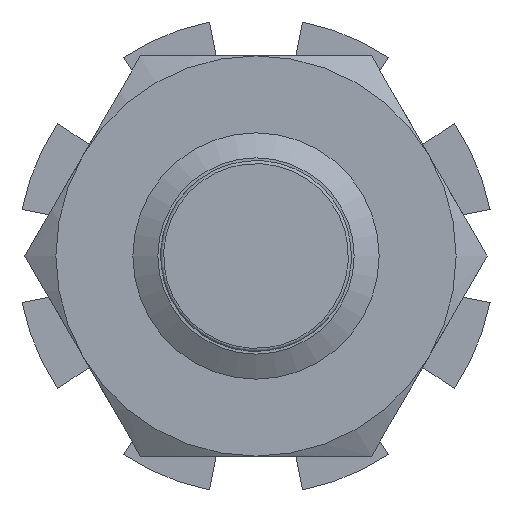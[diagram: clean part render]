
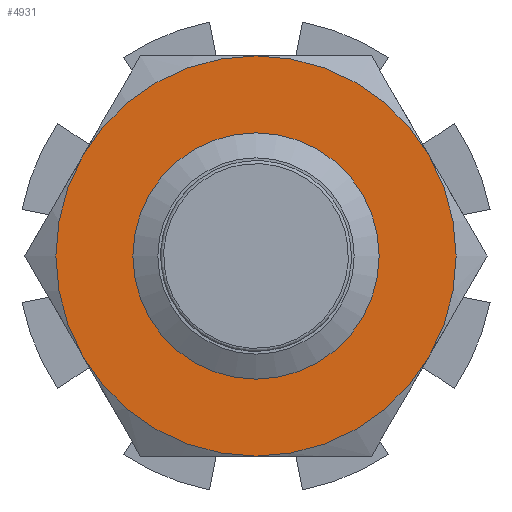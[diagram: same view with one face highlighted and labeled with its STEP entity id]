
A CAD part, left-side view. The second image highlights one B-rep face of the part: STEP entity #4931.
In plain terms, the highlighted planar face has unit normal (-1, 0, 0).
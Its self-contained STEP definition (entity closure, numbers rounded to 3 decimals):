
#4824=CARTESIAN_POINT('',(134.11,266.684,2.));
#4825=VERTEX_POINT('',#4824);
#4826=CARTESIAN_POINT('',(134.11,270.148,0.));
#4827=DIRECTION('',(-1.,0.0,0.0));
#4828=DIRECTION('',(0.0,0.866,-0.5));
#4829=AXIS2_PLACEMENT_3D('',#4826,#4827,#4828);
#4830=CIRCLE('',#4829,4.);
#4831=EDGE_CURVE('',#4825,#4825,#4830,.T.);
#4867=CARTESIAN_POINT('',(134.11,270.148,0.));
#4868=DIRECTION('',(1.0,0.0,0.0));
#4869=DIRECTION('',(0.0,0.866,-0.5));
#4870=AXIS2_PLACEMENT_3D('',#4867,#4868,#4869);
#4871=PLANE('',#4870);
#4872=CARTESIAN_POINT('',(134.11,270.148,-6.5));
#4873=VERTEX_POINT('',#4872);
#4874=CARTESIAN_POINT('',(134.11,264.519,-3.25));
#4875=VERTEX_POINT('',#4874);
#4876=CARTESIAN_POINT('',(134.11,270.148,0.));
#4877=DIRECTION('',(-1.0,0.0,0.0));
#4878=DIRECTION('',(0.0,0.5,0.866));
#4879=AXIS2_PLACEMENT_3D('',#4876,#4877,#4878);
#4880=CIRCLE('',#4879,6.5);
#4881=EDGE_CURVE('',#4873,#4875,#4880,.T.);
#4882=ORIENTED_EDGE('',*,*,#4881,.T.);
#4883=CARTESIAN_POINT('',(134.11,264.519,3.25));
#4884=VERTEX_POINT('',#4883);
#4885=CARTESIAN_POINT('',(134.11,270.148,0.));
#4886=DIRECTION('',(-1.0,0.0,0.0));
#4887=DIRECTION('',(0.0,0.5,0.866));
#4888=AXIS2_PLACEMENT_3D('',#4885,#4886,#4887);
#4889=CIRCLE('',#4888,6.5);
#4890=EDGE_CURVE('',#4875,#4884,#4889,.T.);
#4891=ORIENTED_EDGE('',*,*,#4890,.T.);
#4892=CARTESIAN_POINT('',(134.11,270.148,6.5));
#4893=VERTEX_POINT('',#4892);
#4894=CARTESIAN_POINT('',(134.11,270.148,0.));
#4895=DIRECTION('',(-1.0,0.0,0.0));
#4896=DIRECTION('',(0.0,0.5,0.866));
#4897=AXIS2_PLACEMENT_3D('',#4894,#4895,#4896);
#4898=CIRCLE('',#4897,6.5);
#4899=EDGE_CURVE('',#4884,#4893,#4898,.T.);
#4900=ORIENTED_EDGE('',*,*,#4899,.T.);
#4901=CARTESIAN_POINT('',(134.11,275.777,3.25));
#4902=VERTEX_POINT('',#4901);
#4903=CARTESIAN_POINT('',(134.11,270.148,0.));
#4904=DIRECTION('',(-1.0,0.0,0.0));
#4905=DIRECTION('',(0.0,0.5,0.866));
#4906=AXIS2_PLACEMENT_3D('',#4903,#4904,#4905);
#4907=CIRCLE('',#4906,6.5);
#4908=EDGE_CURVE('',#4893,#4902,#4907,.T.);
#4909=ORIENTED_EDGE('',*,*,#4908,.T.);
#4910=CARTESIAN_POINT('',(134.11,275.777,-3.25));
#4911=VERTEX_POINT('',#4910);
#4912=CARTESIAN_POINT('',(134.11,270.148,0.));
#4913=DIRECTION('',(-1.0,0.0,0.0));
#4914=DIRECTION('',(0.0,0.5,0.866));
#4915=AXIS2_PLACEMENT_3D('',#4912,#4913,#4914);
#4916=CIRCLE('',#4915,6.5);
#4917=EDGE_CURVE('',#4902,#4911,#4916,.T.);
#4918=ORIENTED_EDGE('',*,*,#4917,.T.);
#4919=CARTESIAN_POINT('',(134.11,270.148,0.));
#4920=DIRECTION('',(-1.0,0.0,0.0));
#4921=DIRECTION('',(0.0,0.5,0.866));
#4922=AXIS2_PLACEMENT_3D('',#4919,#4920,#4921);
#4923=CIRCLE('',#4922,6.5);
#4924=EDGE_CURVE('',#4911,#4873,#4923,.T.);
#4925=ORIENTED_EDGE('',*,*,#4924,.T.);
#4926=EDGE_LOOP('',(#4882,#4891,#4900,#4909,#4918,#4925));
#4927=FACE_OUTER_BOUND('',#4926,.T.);
#4928=ORIENTED_EDGE('',*,*,#4831,.F.);
#4929=EDGE_LOOP('',(#4928));
#4930=FACE_BOUND('',#4929,.T.);
#4931=ADVANCED_FACE('',(#4927,#4930),#4871,.F.);
